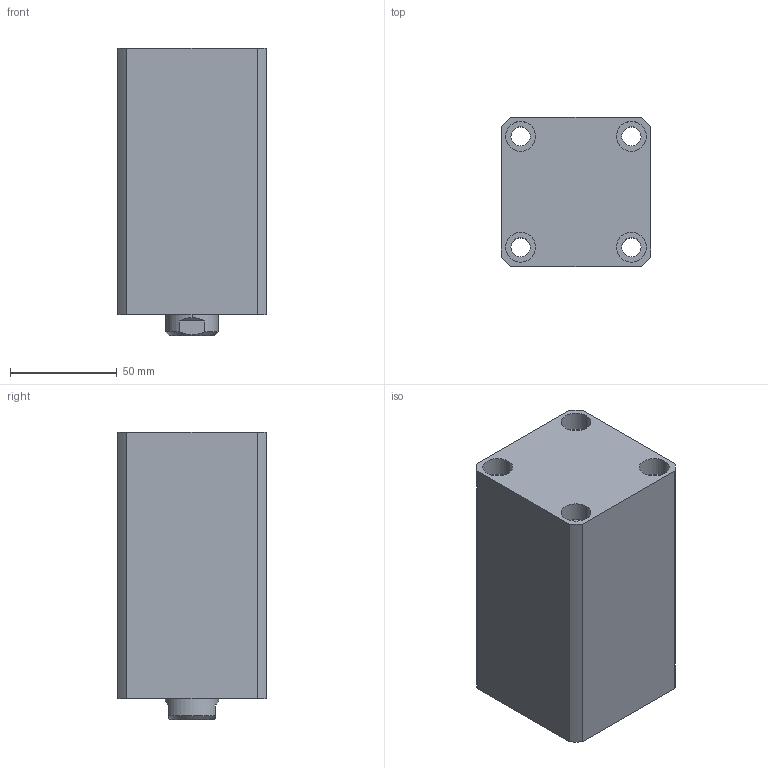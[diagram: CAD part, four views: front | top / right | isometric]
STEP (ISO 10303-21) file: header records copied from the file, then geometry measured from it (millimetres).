
FILE_DESCRIPTION (( 'STEP AP214' ), '1' );
FILE_NAME ('chtb-sd40x70n_asm.STEP', '2018-06-07T07:57:13', ( 'Windows' ), ( 'Microsoft' ), 'SwSTEP 2.0', 'SolidWorks 2015', '' );
FILE_SCHEMA (( 'AUTOMOTIVE_DESIGN' ));
Length unit declared in the file: millimetre
Products named in the file (4): CHTB-SD40QG; CHTB-SD40X70NHSG; CHTB-SD40X70NBT; chtb-sd40x70n_asm
Assembly tree (3 placements, depth 2):
  chtb-sd40x70n_asm
    CHTB-SD40X70NBT
    CHTB-SD40X70NHSG
    CHTB-SD40QG
Bounding box: 70 x 70 x 135 mm (x, y, z)
Volume: 507902.4 mm3; surface area: 100735.6 mm2
Topology: 3 solids, 3 shells, 157 faces, 401 edges, 266 vertices
Faces by surface type: cylinder 80, plane 36, torus 14, bspline 14, cone 13
Entity records: 9977 total; most frequent: CARTESIAN_POINT 6053, ORIENTED_EDGE 790, DIRECTION 768, EDGE_CURVE 395, AXIS2_PLACEMENT_3D 328, VERTEX_POINT 266, EDGE_LOOP 193, CIRCLE 179
